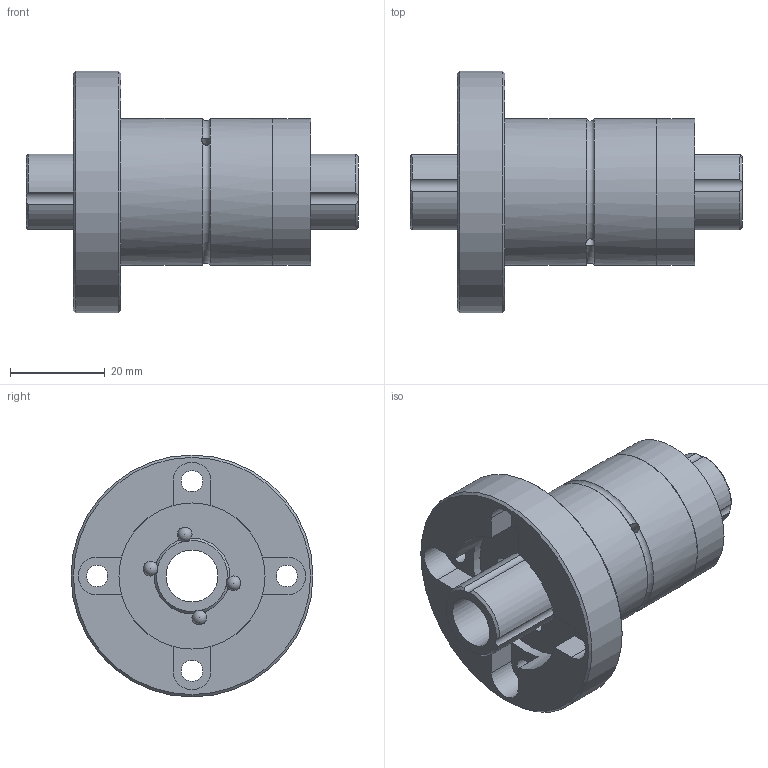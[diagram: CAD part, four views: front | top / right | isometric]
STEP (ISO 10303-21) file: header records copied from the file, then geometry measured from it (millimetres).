
FILE_DESCRIPTION(/* description */ ('Unknown'),/* implementation_level */ '2;1');
FILE_NAME(/* name */ 'TLF016-D1-L70',/* time_stamp */ '2024-12-16T13:52:22+08:00',/* author */ ('Unknown'),/* organization */ ('Unknown'),/* preprocessor_version */ 'ST-DEVELOPER v18.102',/* originating_system */ 'Solid Edge',/* authorisation */ 'Unknown');
FILE_SCHEMA (('AUTOMOTIVE_DESIGN {1 0 10303 214 3 1 1}'));
Length unit declared in the file: millimetre
Products named in the file (3): TLF016-D1-L70; TLF016-D1-xxxx; TLF016
Assembly tree (2 placements, depth 2):
  TLF016-D1-L70
    TLF016-D1-xxxx
    TLF016
Bounding box: 70 x 51 x 51 mm (x, y, z)
Volume: 40534.7 mm3; surface area: 20049.9 mm2
Topology: 2 solids, 2 shells, 83 faces, 288 edges, 194 vertices
Faces by surface type: cylinder 32, sphere 20, plane 19, cone 10, torus 2
Full cylindrical faces by diameter (mm): 2 x2, 4.5 x4, 11 x1, 30.8 x2, 31 x2, 51 x1
Entity records: 3437 total; most frequent: CARTESIAN_POINT 1324, DIRECTION 410, ORIENTED_EDGE 378, EDGE_CURVE 189, AXIS2_PLACEMENT_3D 181, EDGE_LOOP 166, FACE_BOUND 166, VERTEX_POINT 145
